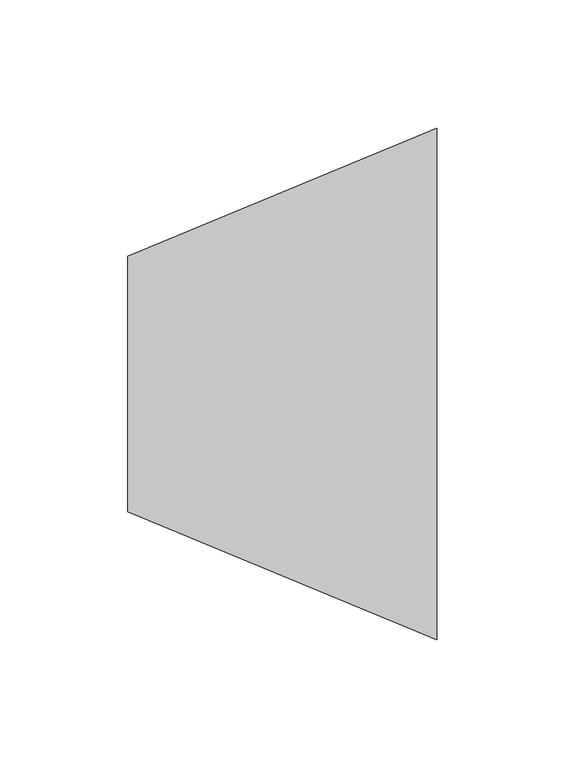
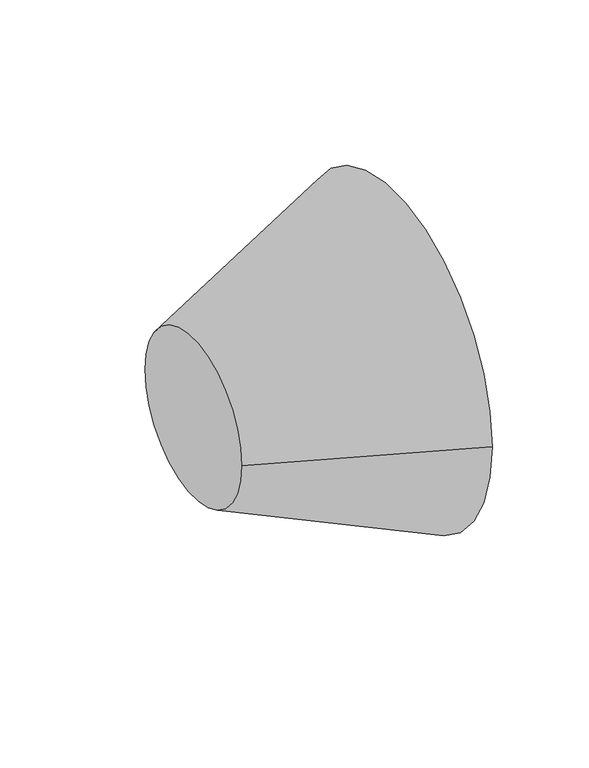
"""IFC4 building model written with IfcOpenShell, lengths in millimetres: duct fitting geometry, M_Transición redonda - Ángulo : EXT_45 graus."""

from ifc_helpers import new_model, si_unit, frame, origin, place, context, project, spatial, polyline, circle_curve, source, transform, mapped, element, save
from ifc_brep_helpers import plane_surface, revolved_surface, advanced_brep


def duct_fitting_9d984206(model_context):
    return source(origin(), model_context, "Body", "AdvancedBrep", [
        advanced_brep(
        [(120.7106781, -100.0, 0.0), (120.7106781, 100.0, 0.0), (0.0, -50.0, 0.0), (0.0, 50.0, 0.0)],
        [
            (0, 1, circle_curve(frame((120.7106781, 0.0, 0.0), z_axis=(1.0, 0.0, 0.0), x_axis=(0.0, -1.0, 0.0)), 100.0)),
            (1, 0, circle_curve(frame((120.7106781, 0.0, 0.0), z_axis=(1.0, 0.0, 0.0), x_axis=(0.0, 1.0, 0.0)), 100.0)),
            (2, 3, circle_curve(frame((0.0, 0.0, 0.0), z_axis=(-1.0, 0.0, 0.0), x_axis=(0.0, 1.0, 0.0)), 50.0)),
            (3, 2, circle_curve(frame((0.0, 0.0, 0.0), z_axis=(-1.0, 0.0, 0.0), x_axis=(0.0, -1.0, 0.0)), 50.0)),
            (3, 1),
            (0, 2),
        ],
        [
            plane_surface(frame((120.7106781, 0.0, 0.0), z_axis=(1.0, 0.0, 0.0), x_axis=(0.0, 0.0, -1.0))),
            plane_surface(frame((0.0, 0.0, 0.0), z_axis=(-1.0, 0.0, 0.0), x_axis=(0.0, 0.0, -1.0))),
            revolved_surface(polyline([(0.0, 50.0, 0.0), (120.7106781, 100.0, 0.0)]), (-120.7106781, 0.0, 0.0), (1.0, 0.0, 0.0)),
            revolved_surface(polyline([(0.0, -50.0, 0.0), (120.7106781, -100.0, 0.0)]), (-120.7106781, 0.0, 0.0), (1.0, 0.0, 0.0)),
        ],
        [
            (0, [[1, 2]]),
            (1, [[3, 4]]),
            (2, [[-4, 5, -1, 6]]),
            (3, [[-3, -6, -2, -5]]),
        ],
    ),
    ])


if __name__ == "__main__":
    model = new_model("IFC4")
    model_context = context("Model", 3, world=origin())
    ifc_project = project(units=[si_unit("LENGTHUNIT", "METRE", prefix="MILLI")], contexts=[model_context])
    site = spatial("IfcSite", under=ifc_project)
    building = spatial("IfcBuilding", under=site)
    placement = place(None, origin())
    duct_fitting_shape = duct_fitting_9d984206(model_context)
    element("IfcDuctFitting", 1, ObjectType="M_Transición redonda - Ángulo : EXT_45 graus", at=placement, inside=building, context=model_context, shape_type="MappedRepresentation", body=[
        mapped(duct_fitting_shape, transform((0.0, 0.0, 0.0), x_axis=(1.0, 0.0, 0.0), y_axis=(0.0, 1.0, 0.0), z_axis=(0.0, 0.0, 1.0))),
    ])
    save(model, "model.ifc")
